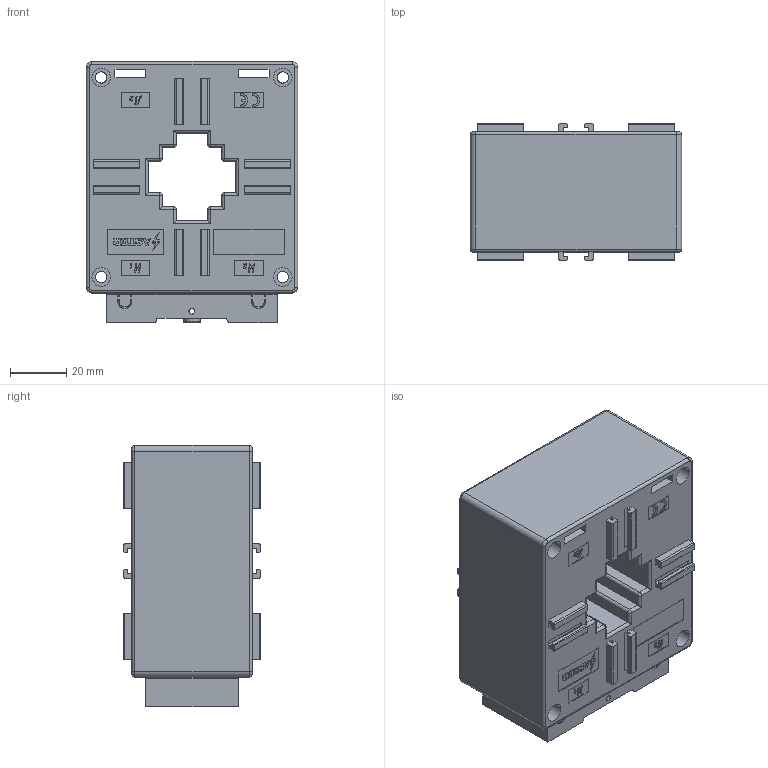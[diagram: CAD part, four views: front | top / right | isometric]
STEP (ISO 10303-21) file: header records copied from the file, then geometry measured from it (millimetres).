
FILE_DESCRIPTION (( 'STEP AP203' ), '1' );
FILE_NAME ('TT-B30.STEP', '2016-12-19T09:37:59', ( '' ), ( '' ), 'SwSTEP 2.0', 'SolidWorks 2015', '' );
FILE_SCHEMA (( 'CONFIG_CONTROL_DESIGN' ));
Products named in the file (1): TT-B30
Bounding box: 75.2 x 48.8 x 92.9 mm (x, y, z)
Volume: 239689.6 mm3; surface area: 49643.3 mm2
Topology: 1 solids, 1 shells, 1403 faces, 3608 edges, 2288 vertices
Faces by surface type: plane 811, cylinder 285, bspline 279, cone 28
Entity records: 51321 total; most frequent: CARTESIAN_POINT 19309, ORIENTED_EDGE 7168, DIRECTION 5502, EDGE_CURVE 3584, LINE 2464, VECTOR 2464, VERTEX_POINT 2288, EDGE_LOOP 1544
